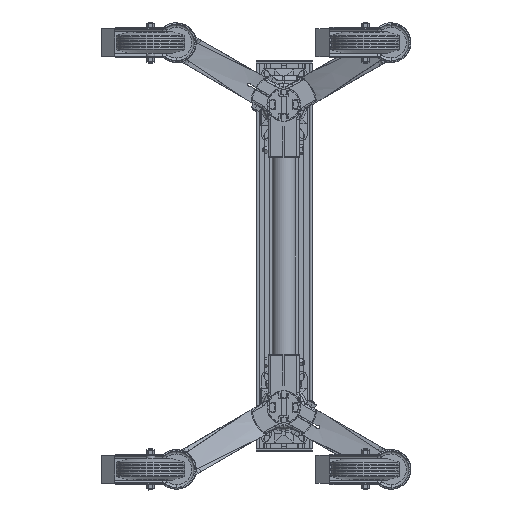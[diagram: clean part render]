
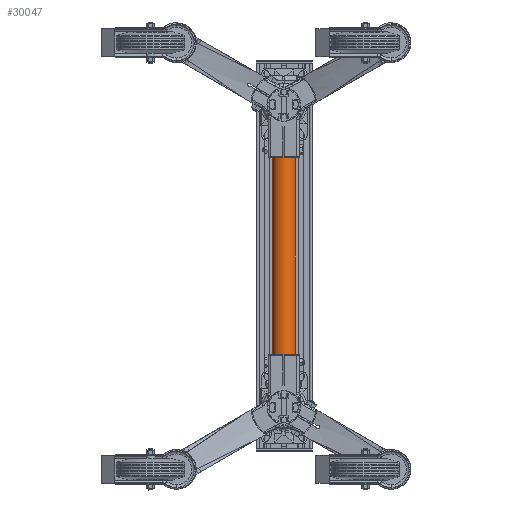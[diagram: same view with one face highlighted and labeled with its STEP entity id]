
A CAD part, front view. The second image highlights one B-rep face of the part: STEP entity #30047.
In plain terms, the highlighted cylindrical face has radius 21 mm (diameter 42 mm), a partial arc.
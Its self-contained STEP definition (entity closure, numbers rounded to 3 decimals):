
#30015 = ORIENTED_EDGE ( 'NONE', *, *, #30017, .F. ) ;
#30017 = EDGE_CURVE ( 'NONE', #30031, #30030, #63685, .T. ) ;
#30019 = ORIENTED_EDGE ( 'NONE', *, *, #30044, .T. ) ;
#30021 = ORIENTED_EDGE ( 'NONE', *, *, #30023, .T. ) ;
#30023 = EDGE_CURVE ( 'NONE', #30040, #30035, #63681, .T. ) ;
#30030 = VERTEX_POINT ( 'NONE', #63672 ) ;
#30031 = VERTEX_POINT ( 'NONE', #63671 ) ;
#30034 = EDGE_CURVE ( 'NONE', #30030, #30035, #63670, .T. ) ;
#30035 = VERTEX_POINT ( 'NONE', #63666 ) ;
#30040 = VERTEX_POINT ( 'NONE', #63660 ) ;
#30044 = EDGE_CURVE ( 'NONE', #30031, #30040, #63723, .T. ) ;
#30047 = ADVANCED_FACE ( 'NONE', ( #63719 ), #63704, .T. ) ;
#30051 = EDGE_LOOP ( 'NONE', ( #30057, #30015, #30019, #30021 ) ) ;
#30057 = ORIENTED_EDGE ( 'NONE', *, *, #30034, .F. ) ;
#63633 = CARTESIAN_POINT ( 'NONE',  ( -1., -356.01, -235.5 ) ) ;
#63660 = CARTESIAN_POINT ( 'NONE',  ( 20., -356.01, 235.5 ) ) ;
#63666 = CARTESIAN_POINT ( 'NONE',  ( -22., -356.01, 235.5 ) ) ;
#63667 = DIRECTION ( 'NONE',  ( 0., 0., 1. ) ) ;
#63668 = VECTOR ( 'NONE', #63667, 1000. ) ;
#63669 = CARTESIAN_POINT ( 'NONE',  ( -22., -356.01, -235.5 ) ) ;
#63670 = LINE ( 'NONE', #63669, #63668 ) ;
#63671 = CARTESIAN_POINT ( 'NONE',  ( 20., -356.01, -235.5 ) ) ;
#63672 = CARTESIAN_POINT ( 'NONE',  ( -22., -356.01, -235.5 ) ) ;
#63677 = DIRECTION ( 'NONE',  ( -1., 0., 0. ) ) ;
#63678 = DIRECTION ( 'NONE',  ( 0., 0., -1. ) ) ;
#63679 = CARTESIAN_POINT ( 'NONE',  ( -1., -356.01, 235.5 ) ) ;
#63680 = AXIS2_PLACEMENT_3D ( 'NONE', #63679, #63678, #63677 ) ;
#63681 = CIRCLE ( 'NONE', #63680, 21. ) ;
#63682 = DIRECTION ( 'NONE',  ( -1., 0., 0. ) ) ;
#63683 = DIRECTION ( 'NONE',  ( 0., 0., -1. ) ) ;
#63684 = AXIS2_PLACEMENT_3D ( 'NONE', #63633, #63683, #63682 ) ;
#63685 = CIRCLE ( 'NONE', #63684, 21. ) ;
#63698 = DIRECTION ( 'NONE',  ( 1., 0., 0. ) ) ;
#63699 = DIRECTION ( 'NONE',  ( 0., 0., 1. ) ) ;
#63700 = CARTESIAN_POINT ( 'NONE',  ( -1., -356.01, -235.5 ) ) ;
#63701 = AXIS2_PLACEMENT_3D ( 'NONE', #63700, #63699, #63698 ) ;
#63704 = CYLINDRICAL_SURFACE ( 'NONE', #63701, 21. ) ;
#63719 = FACE_OUTER_BOUND ( 'NONE', #30051, .T. ) ;
#63720 = DIRECTION ( 'NONE',  ( 0., 0., 1. ) ) ;
#63721 = VECTOR ( 'NONE', #63720, 1000. ) ;
#63722 = CARTESIAN_POINT ( 'NONE',  ( 20., -356.01, -235.5 ) ) ;
#63723 = LINE ( 'NONE', #63722, #63721 ) ;
